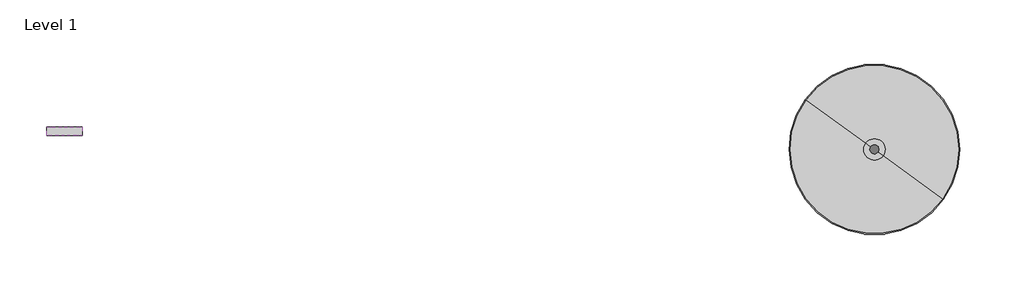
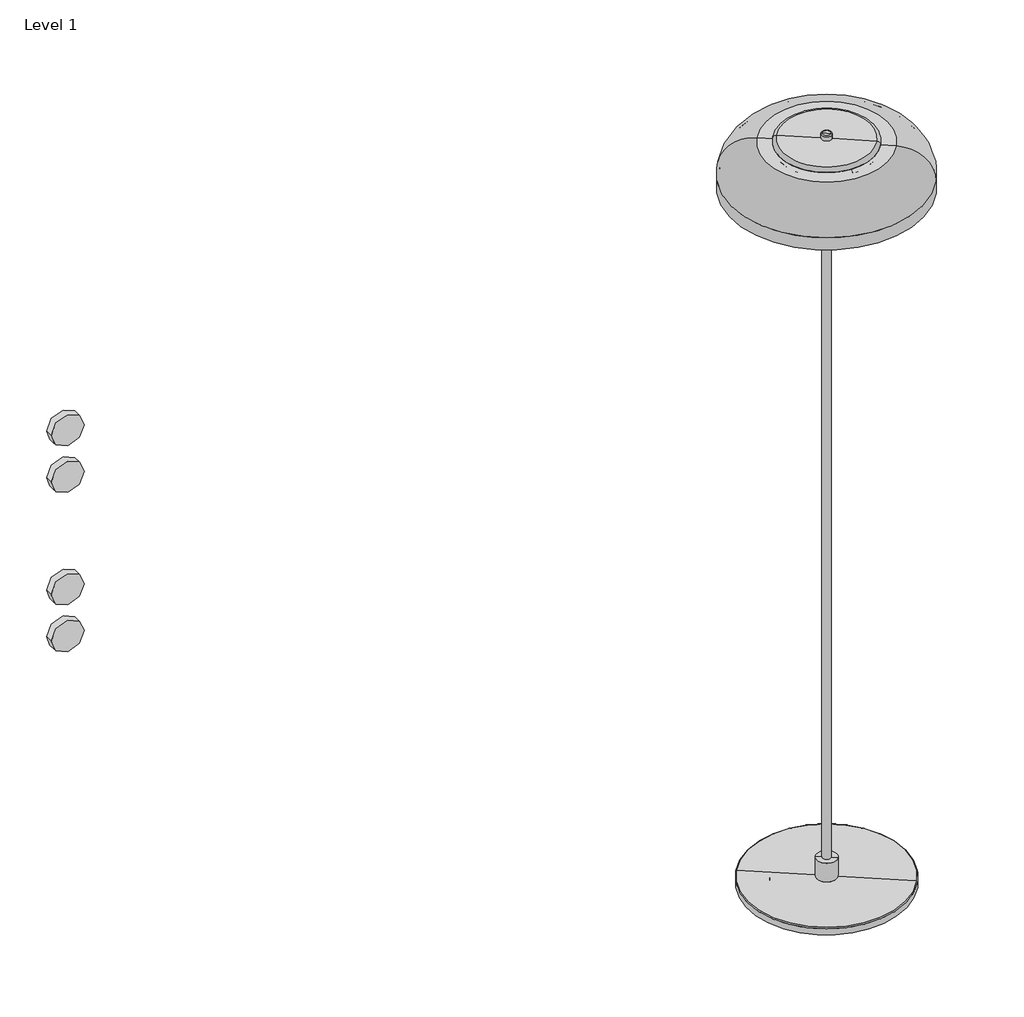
# One storey: 4 proxies, 1 light fixture.
"""IFC4 building model written with IfcOpenShell, lengths in millimetres."""

from ifc_helpers import new_model, si_unit, origin, place, context, project, spatial, transform, mapped, element, save
from components import materialmodel_materialmodel_d9ff14ed, light_fixture_9dd19aa5

model = new_model("IFC4")

# Units and contexts
model_context = context("Model", 3, world=origin())
ifc_project = project(units=[si_unit("LENGTHUNIT", "METRE", prefix="MILLI")], contexts=[model_context])

# Site, building, storey
site = spatial("IfcSite", under=ifc_project)
building = spatial("IfcBuilding", under=site)
storey = spatial("IfcBuildingStorey", under=building, Name="Level 1", Elevation=0.0)

# Proxies
placement = place(None, origin())
materialmodel_materialmodel_shape = materialmodel_materialmodel_d9ff14ed(model_context)
element("IfcBuildingElementProxy", 1, Name="MaterialModel : MaterialModel", ObjectType="MaterialModel : MaterialModel", at=placement, inside=storey, context=model_context, shape_type="MappedRepresentation", body=[
    mapped(materialmodel_materialmodel_shape, transform((-14512.3888813, 5257.5863071, 957.7256399), x_axis=(1.0, 0.0, 0.0), y_axis=(0.0, 1.0, 0.0), z_axis=(0.0, 0.0, 1.0))),
])
element("IfcBuildingElementProxy", 2, Name="MaterialModel : MaterialModel", ObjectType="MaterialModel : MaterialModel", at=placement, inside=storey, context=model_context, shape_type="MappedRepresentation", body=[
    mapped(materialmodel_materialmodel_shape, transform((-14512.3888813, 5257.5863071, 1212.7256399), x_axis=(1.0, 0.0, 0.0), y_axis=(0.0, 1.0, 0.0), z_axis=(0.0, 0.0, 1.0))),
])
element("IfcBuildingElementProxy", 3, Name="MaterialModel : MaterialModel", ObjectType="MaterialModel : MaterialModel", at=placement, inside=storey, context=model_context, shape_type="MappedRepresentation", body=[
    mapped(materialmodel_materialmodel_shape, transform((-14512.3888813, 5257.5863071, 1137.7256399), x_axis=(1.0, 0.0, 0.0), y_axis=(0.0, 1.0, 0.0), z_axis=(0.0, 0.0, 1.0))),
])
element("IfcBuildingElementProxy", 4, Name="MaterialModel : MaterialModel", ObjectType="MaterialModel : MaterialModel", at=placement, inside=storey, context=model_context, shape_type="MappedRepresentation", body=[
    mapped(materialmodel_materialmodel_shape, transform((-14512.3888813, 5257.5863071, 882.7256399), x_axis=(1.0, 0.0, 0.0), y_axis=(0.0, 1.0, 0.0), z_axis=(0.0, 0.0, 1.0))),
])

# Light fixture
light_fixture_shape = light_fixture_9dd19aa5(model_context)
element("IfcLightFixture", 5, ObjectType="Nuura - Blossi - Floor : Nuura - Blossi - Floor", at=placement, inside=storey, context=model_context, shape_type="MappedRepresentation", body=[
    mapped(light_fixture_shape, transform((-13372.5207912, 5226.0069548, 173.2082233), x_axis=(0.8098828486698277, -0.586591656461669, 0.0), y_axis=(0.586591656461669, 0.8098828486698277, 0.0), z_axis=(0.0, 0.0, 1.0))),
])

save(model, "model.ifc")
